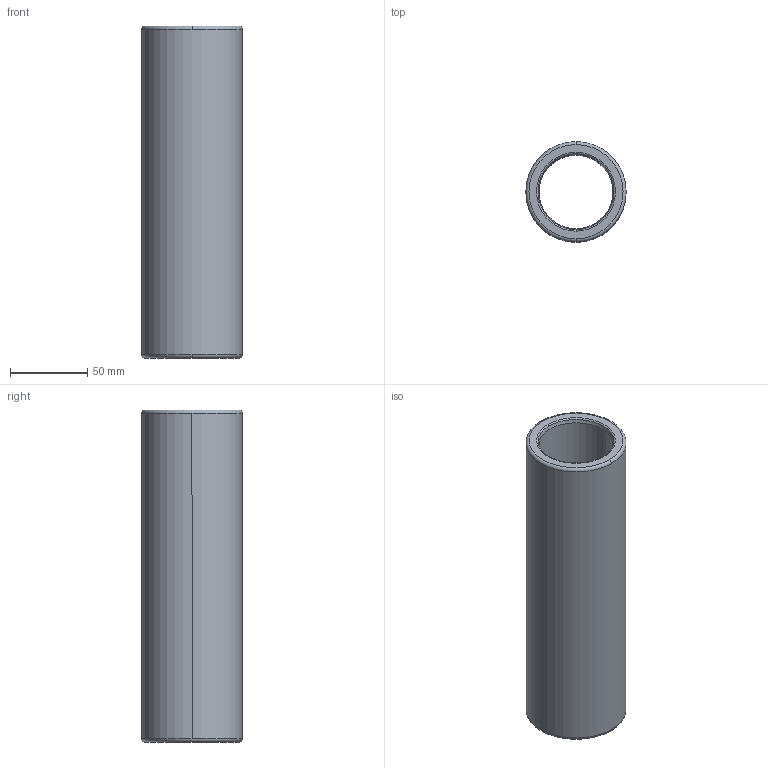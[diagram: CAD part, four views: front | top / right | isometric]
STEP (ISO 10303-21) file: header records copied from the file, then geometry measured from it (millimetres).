
FILE_DESCRIPTION((''),'2;1');
FILE_NAME('B30_040_215.stp','2009-01-12T10:52:00',(''),(''),'Mechanical Desktop 2009','Mechanical Desktop 2009',', , ');
FILE_SCHEMA(('CONFIG_CONTROL_DESIGN'));
Length unit declared in the file: millimetre
Products named in the file (2): Product; blmdl1
Assembly tree (1 placements, depth 2):
  Product
    blmdl1
Bounding box: 64.99 x 64.99 x 215 mm (x, y, z)
Volume: 323933.7 mm3; surface area: 78686.7 mm2
Topology: 1 solids, 1 shells, 18 faces, 48 edges, 32 vertices
Faces by surface type: torus 8, cylinder 4, cone 4, plane 2
Entity records: 705 total; most frequent: DIRECTION 128, CARTESIAN_POINT 100, ORIENTED_EDGE 96, AXIS2_PLACEMENT_3D 60, EDGE_CURVE 48, CIRCLE 40, VERTEX_POINT 32, EDGE_LOOP 20
